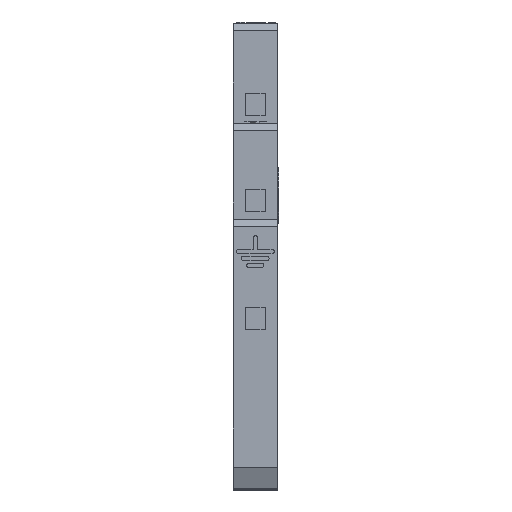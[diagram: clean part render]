
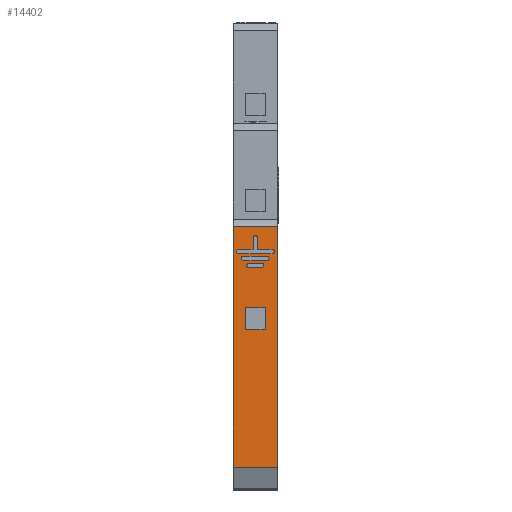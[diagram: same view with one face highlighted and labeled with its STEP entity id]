
A CAD part, top view. The second image highlights one B-rep face of the part: STEP entity #14402.
In plain terms, the highlighted planar face has unit normal (0, 0, 1).
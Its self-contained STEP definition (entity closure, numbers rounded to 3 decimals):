
#14312=CARTESIAN_POINT('',(-3.,-3.56,45.));
#14313=VERTEX_POINT('',#14312);
#14321=CARTESIAN_POINT('',(3.,-3.56,45.));
#14322=VERTEX_POINT('',#14321);
#14329=CARTESIAN_POINT('',(3.,-3.56,45.));
#14330=DIRECTION('',(-1.,0.,0.));
#14331=VECTOR('',#14330,6.);
#14332=LINE('',#14329,#14331);
#14333=EDGE_CURVE('',#14322,#14313,#14332,.T.);
#14338=CARTESIAN_POINT('',(3.,-3.56,45.));
#14339=DIRECTION('',(0.,0.,1.));
#14340=DIRECTION('',(1.,0.,0.));
#14341=AXIS2_PLACEMENT_3D('',#14338,#14339,#14340);
#14342=PLANE('',#14341);
#14343=CARTESIAN_POINT('',(-1.35,15.,45.));
#14344=VERTEX_POINT('',#14343);
#14345=CARTESIAN_POINT('',(1.35,15.,45.));
#14346=VERTEX_POINT('',#14345);
#14347=CARTESIAN_POINT('',(-1.35,15.,45.));
#14348=DIRECTION('',(1.,0.,-0.));
#14349=VECTOR('',#14348,2.7);
#14350=LINE('',#14347,#14349);
#14351=EDGE_CURVE('',#14344,#14346,#14350,.T.);
#14352=ORIENTED_EDGE('',*,*,#14351,.F.);
#14353=CARTESIAN_POINT('',(-1.35,18.,45.));
#14354=VERTEX_POINT('',#14353);
#14355=CARTESIAN_POINT('',(-1.35,18.,45.));
#14356=DIRECTION('',(-0.,-1.,0.));
#14357=VECTOR('',#14356,3.);
#14358=LINE('',#14355,#14357);
#14359=EDGE_CURVE('',#14354,#14344,#14358,.T.);
#14360=ORIENTED_EDGE('',*,*,#14359,.F.);
#14361=CARTESIAN_POINT('',(1.35,18.,45.));
#14362=VERTEX_POINT('',#14361);
#14363=CARTESIAN_POINT('',(1.35,18.,45.));
#14364=DIRECTION('',(-1.,0.,0.));
#14365=VECTOR('',#14364,2.7);
#14366=LINE('',#14363,#14365);
#14367=EDGE_CURVE('',#14362,#14354,#14366,.T.);
#14368=ORIENTED_EDGE('',*,*,#14367,.F.);
#14369=CARTESIAN_POINT('',(1.35,15.,45.));
#14370=DIRECTION('',(-0.,1.,0.));
#14371=VECTOR('',#14370,3.);
#14372=LINE('',#14369,#14371);
#14373=EDGE_CURVE('',#14346,#14362,#14372,.T.);
#14374=ORIENTED_EDGE('',*,*,#14373,.F.);
#14375=EDGE_LOOP('',(#14352,#14360,#14368,#14374));
#14376=FACE_BOUND('',#14375,.T.);
#14377=CARTESIAN_POINT('',(-3.,29.,45.));
#14378=VERTEX_POINT('',#14377);
#14379=CARTESIAN_POINT('',(-3.,-3.56,45.));
#14380=DIRECTION('',(0.,1.,0.));
#14381=VECTOR('',#14380,32.56);
#14382=LINE('',#14379,#14381);
#14383=EDGE_CURVE('',#14313,#14378,#14382,.T.);
#14384=ORIENTED_EDGE('',*,*,#14383,.F.);
#14385=ORIENTED_EDGE('',*,*,#14333,.F.);
#14386=CARTESIAN_POINT('',(3.,29.,45.));
#14387=VERTEX_POINT('',#14386);
#14388=CARTESIAN_POINT('',(3.,-3.56,45.));
#14389=DIRECTION('',(0.,1.,0.));
#14390=VECTOR('',#14389,32.56);
#14391=LINE('',#14388,#14390);
#14392=EDGE_CURVE('',#14322,#14387,#14391,.T.);
#14393=ORIENTED_EDGE('',*,*,#14392,.T.);
#14394=CARTESIAN_POINT('',(3.,29.,45.));
#14395=DIRECTION('',(-1.,0.,0.));
#14396=VECTOR('',#14395,6.);
#14397=LINE('',#14394,#14396);
#14398=EDGE_CURVE('',#14387,#14378,#14397,.T.);
#14399=ORIENTED_EDGE('',*,*,#14398,.T.);
#14400=EDGE_LOOP('',(#14384,#14385,#14393,#14399));
#14401=FACE_BOUND('',#14400,.T.);
#14402=ADVANCED_FACE('',(#14376,#14401),#14342,.T.);
